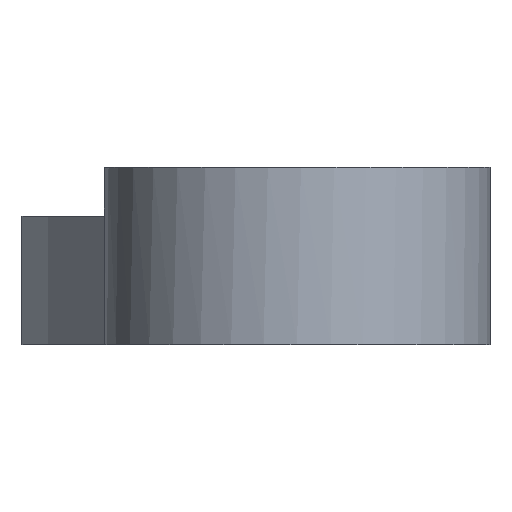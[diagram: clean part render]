
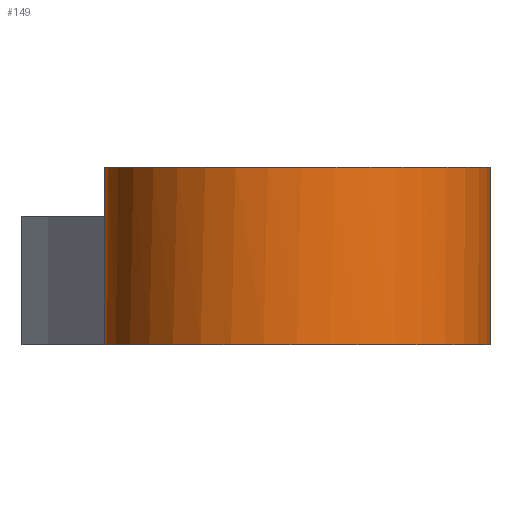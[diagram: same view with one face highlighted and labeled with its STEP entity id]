
A CAD part, front view. The second image highlights one B-rep face of the part: STEP entity #149.
In plain terms, the highlighted cylindrical face has radius 7.5 mm (diameter 15 mm), a partial arc.
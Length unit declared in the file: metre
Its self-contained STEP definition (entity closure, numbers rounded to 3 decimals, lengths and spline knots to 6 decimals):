
#18=LINE('',#264,#23);
#19=LINE('',#266,#24);
#20=LINE('',#271,#25);
#23=VECTOR('',#210,1.);
#24=VECTOR('',#213,1.);
#25=VECTOR('',#216,1.);
#34=ORIENTED_EDGE('',*,*,#71,.T.);
#35=ORIENTED_EDGE('',*,*,#72,.F.);
#36=ORIENTED_EDGE('',*,*,#73,.T.);
#37=ORIENTED_EDGE('',*,*,#74,.T.);
#38=ORIENTED_EDGE('',*,*,#70,.F.);
#39=ORIENTED_EDGE('',*,*,#75,.T.);
#70=EDGE_CURVE('',#88,#87,#18,.T.);
#71=EDGE_CURVE('',#89,#90,#19,.T.);
#72=EDGE_CURVE('',#91,#90,#101,.T.);
#73=EDGE_CURVE('',#91,#92,#20,.T.);
#74=EDGE_CURVE('',#92,#87,#102,.T.);
#75=EDGE_CURVE('',#88,#89,#103,.T.);
#87=VERTEX_POINT('',#261);
#88=VERTEX_POINT('',#263);
#89=VERTEX_POINT('',#267);
#90=VERTEX_POINT('',#268);
#91=VERTEX_POINT('',#270);
#92=VERTEX_POINT('',#272);
#101=CIRCLE('',#177,0.0075);
#102=CIRCLE('',#178,0.0075);
#103=CIRCLE('',#179,0.0075);
#113=EDGE_LOOP('',(#34,#35,#36,#37,#38,#39));
#128=FACE_BOUND('',#113,.T.);
#143=CYLINDRICAL_SURFACE('',#176,0.0075);
#149=ADVANCED_FACE('',(#128),#143,.T.);
#176=AXIS2_PLACEMENT_3D('',#265,#211,#212);
#177=AXIS2_PLACEMENT_3D('',#269,#214,#215);
#178=AXIS2_PLACEMENT_3D('',#273,#217,#218);
#179=AXIS2_PLACEMENT_3D('',#274,#219,#220);
#210=DIRECTION('',(0.,0.,1.));
#211=DIRECTION('',(0.,0.,1.));
#212=DIRECTION('',(1.,0.,0.));
#213=DIRECTION('',(0.,0.,1.));
#214=DIRECTION('',(0.,0.,1.));
#215=DIRECTION('',(1.,0.,0.));
#216=DIRECTION('',(0.,0.,-1.));
#217=DIRECTION('',(0.,0.,1.));
#218=DIRECTION('',(1.,0.,0.));
#219=DIRECTION('',(0.,0.,1.));
#220=DIRECTION('',(1.,0.,0.));
#261=CARTESIAN_POINT('',(-0.05,-0.0355,-0.011));
#263=CARTESIAN_POINT('',(-0.05,-0.0355,-0.016));
#264=CARTESIAN_POINT('',(-0.05,-0.0355,-0.016));
#265=CARTESIAN_POINT('',(-0.0425,-0.0355,-0.016));
#266=CARTESIAN_POINT('',(-0.035,-0.0355,-0.016));
#267=CARTESIAN_POINT('',(-0.035,-0.0355,-0.016));
#268=CARTESIAN_POINT('',(-0.035,-0.0355,-0.0091));
#269=CARTESIAN_POINT('',(-0.0425,-0.0355,-0.0091));
#270=CARTESIAN_POINT('',(-0.036293,-0.03129,-0.0091));
#271=CARTESIAN_POINT('',(-0.036293,-0.03129,-0.0091));
#272=CARTESIAN_POINT('',(-0.036293,-0.03129,-0.011));
#273=CARTESIAN_POINT('',(-0.0425,-0.0355,-0.011));
#274=CARTESIAN_POINT('',(-0.0425,-0.0355,-0.016));
